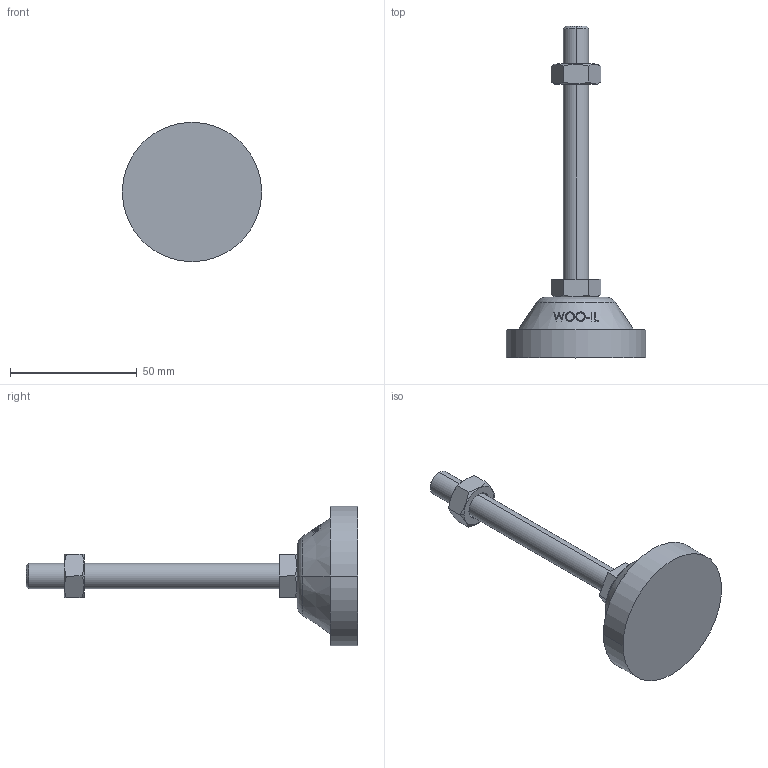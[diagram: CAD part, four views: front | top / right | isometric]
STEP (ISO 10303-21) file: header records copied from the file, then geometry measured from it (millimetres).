
FILE_DESCRIPTION (( 'STEP AP214' ), '1' );
FILE_NAME ('RL55-M10-100.step', '2021-01-06T08:16:14', ( '' ), ( '' ), 'SwSTEP 2.0', 'SolidWorks 2019', '' );
FILE_SCHEMA (( 'AUTOMOTIVE_DESIGN' ));
Length unit declared in the file: millimetre
Products named in the file (1): RL55-M10-100
Bounding box: 55 x 131 x 55 mm (x, y, z)
Volume: 51162.1 mm3; surface area: 12470 mm2
Topology: 3 solids, 3 shells, 93 faces, 217 edges, 140 vertices
Faces by surface type: plane 47, cone 22, bspline 16, cylinder 6, torus 2
Entity records: 4029 total; most frequent: CARTESIAN_POINT 1997, ORIENTED_EDGE 434, DIRECTION 349, EDGE_CURVE 217, VERTEX_POINT 140, AXIS2_PLACEMENT_3D 134, EDGE_LOOP 105, FACE_OUTER_BOUND 93
